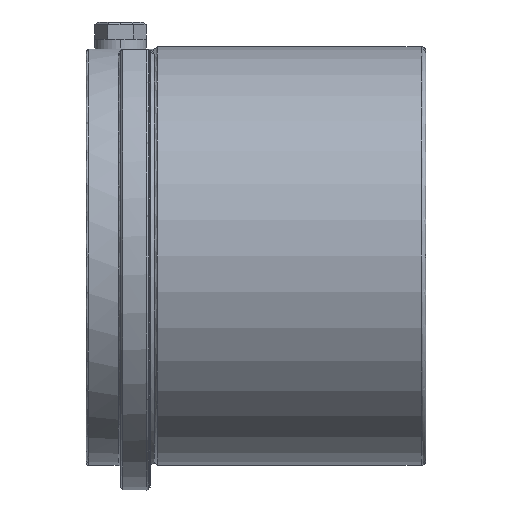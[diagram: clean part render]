
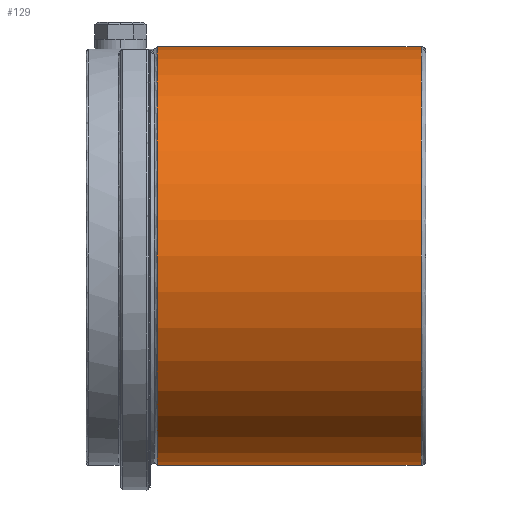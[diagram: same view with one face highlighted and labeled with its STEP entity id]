
A CAD part, left-side view. The second image highlights one B-rep face of the part: STEP entity #129.
In plain terms, the highlighted face is a revolution surface.
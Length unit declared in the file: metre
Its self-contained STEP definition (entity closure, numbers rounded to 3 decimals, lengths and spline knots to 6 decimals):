
#129 = ADVANCED_FACE( '', ( #309 ), #310, .F. );
#309 = FACE_OUTER_BOUND( '', #1102, .T. );
#310 = SURFACE_OF_REVOLUTION( '', #1103, #1104 );
#1102 = EDGE_LOOP( '', ( #2576, #2577, #2578, #2579 ) );
#1103 = B_SPLINE_CURVE_WITH_KNOTS( '', 1, ( #2580, #2581 ), .UNSPECIFIED., .F., .F., ( 2, 2 ), ( -10000., 10000. ), .UNSPECIFIED. );
#1104 = AXIS1_PLACEMENT( '', #2582, #2583 );
#2576 = ORIENTED_EDGE( '', *, *, #3299, .T. );
#2577 = ORIENTED_EDGE( '', *, *, #3300, .T. );
#2578 = ORIENTED_EDGE( '', *, *, #3298, .F. );
#2579 = ORIENTED_EDGE( '', *, *, #3301, .T. );
#2580 = CARTESIAN_POINT( '', ( 0., 10000.0545, -0.0425 ) );
#2581 = CARTESIAN_POINT( '', ( 0., -9999.9455, -0.0425 ) );
#2582 = CARTESIAN_POINT( '', ( 0., 0.0545, 0. ) );
#2583 = DIRECTION( '', ( 0., 1., 0. ) );
#3298 = EDGE_CURVE( '', #3695, #3694, #3699, .T. );
#3299 = EDGE_CURVE( '', #3700, #3701, #3702, .T. );
#3300 = EDGE_CURVE( '', #3701, #3694, #3703, .T. );
#3301 = EDGE_CURVE( '', #3695, #3700, #3704, .F. );
#3694 = VERTEX_POINT( '', #5580 );
#3695 = VERTEX_POINT( '', #5581 );
#3699 = CIRCLE( '', #5605, 0.0425 );
#3700 = VERTEX_POINT( '', #5606 );
#3701 = VERTEX_POINT( '', #5607 );
#3702 = CIRCLE( '', #5608, 0.0425 );
#3703 = LINE( '', #5609, #5610 );
#3704 = LINE( '', #5611, #5612 );
#5580 = CARTESIAN_POINT( '', ( 0., 0.001, -0.0425 ) );
#5581 = CARTESIAN_POINT( '', ( 0., 0.001, 0.0425 ) );
#5605 = AXIS2_PLACEMENT_3D( '', #6403, #6404, #6405 );
#5606 = CARTESIAN_POINT( '', ( 0., 0.0545, 0.0425 ) );
#5607 = CARTESIAN_POINT( '', ( 0., 0.0545, -0.0425 ) );
#5608 = AXIS2_PLACEMENT_3D( '', #6406, #6407, #6408 );
#5609 = CARTESIAN_POINT( '', ( 0., 0.0545, -0.0425 ) );
#5610 = VECTOR( '', #6409, 1. );
#5611 = CARTESIAN_POINT( '', ( 0., 0.0545, 0.0425 ) );
#5612 = VECTOR( '', #6410, 1. );
#6403 = CARTESIAN_POINT( '', ( 0., 0.001, 0. ) );
#6404 = DIRECTION( '', ( 0., -1., 0. ) );
#6405 = DIRECTION( '', ( 0., 0., -1. ) );
#6406 = CARTESIAN_POINT( '', ( 0., 0.0545, 0. ) );
#6407 = DIRECTION( '', ( 0., -1., 0. ) );
#6408 = DIRECTION( '', ( 0., 0., -1. ) );
#6409 = DIRECTION( '', ( 0., -1., 0. ) );
#6410 = DIRECTION( '', ( 0., -1., 0. ) );
